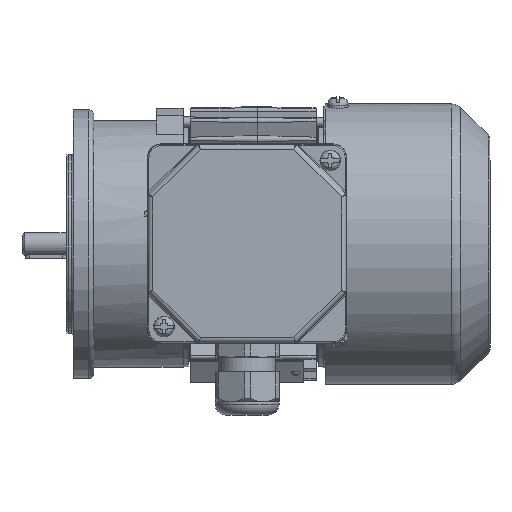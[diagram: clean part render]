
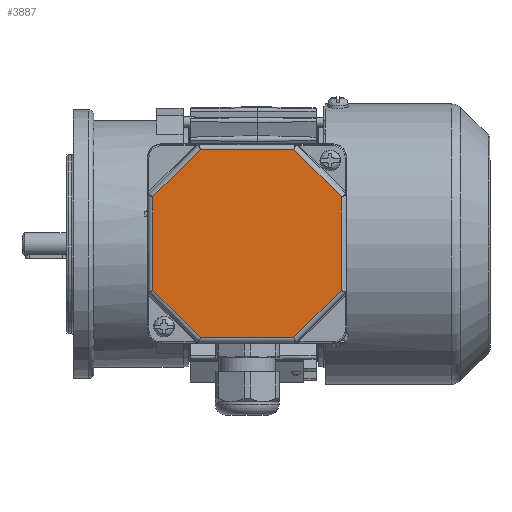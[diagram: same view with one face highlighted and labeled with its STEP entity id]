
A CAD part, top view. The second image highlights one B-rep face of the part: STEP entity #3887.
In plain terms, the highlighted planar face has unit normal (0, 0, 1).
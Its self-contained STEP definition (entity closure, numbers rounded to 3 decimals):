
#3887 = ADVANCED_FACE( '', ( #8253 ), #8254, .T. );
#8253 = FACE_OUTER_BOUND( '', #16474, .T. );
#8254 = PLANE( '', #16475 );
#16474 = EDGE_LOOP( '', ( #30069, #30070, #30071, #30072, #30073, #30074, #30075, #30076 ) );
#16475 = AXIS2_PLACEMENT_3D( '', #30077, #30078, #30079 );
#30069 = ORIENTED_EDGE( '', *, *, #40527, .T. );
#30070 = ORIENTED_EDGE( '', *, *, #40528, .T. );
#30071 = ORIENTED_EDGE( '', *, *, #40529, .T. );
#30072 = ORIENTED_EDGE( '', *, *, #40530, .T. );
#30073 = ORIENTED_EDGE( '', *, *, #40051, .T. );
#30074 = ORIENTED_EDGE( '', *, *, #39827, .T. );
#30075 = ORIENTED_EDGE( '', *, *, #40531, .T. );
#30076 = ORIENTED_EDGE( '', *, *, #39515, .T. );
#30077 = CARTESIAN_POINT( '', ( -39., 39., 12. ) );
#30078 = DIRECTION( '', ( 0., 0., 1. ) );
#30079 = DIRECTION( '', ( 1., 0., 0. ) );
#39515 = EDGE_CURVE( '', #46682, #47059, #47061, .T. );
#39827 = EDGE_CURVE( '', #47518, #47519, #47520, .T. );
#40051 = EDGE_CURVE( '', #47819, #47518, #47820, .F. );
#40527 = EDGE_CURVE( '', #47059, #48456, #48457, .F. );
#40528 = EDGE_CURVE( '', #48456, #47356, #48458, .T. );
#40529 = EDGE_CURVE( '', #47356, #48459, #48460, .F. );
#40530 = EDGE_CURVE( '', #48459, #47819, #48461, .T. );
#40531 = EDGE_CURVE( '', #47519, #46682, #48462, .F. );
#46682 = VERTEX_POINT( '', #59254 );
#47059 = VERTEX_POINT( '', #59964 );
#47061 = LINE( '', #59966, #59967 );
#47356 = VERTEX_POINT( '', #60559 );
#47518 = VERTEX_POINT( '', #60815 );
#47519 = VERTEX_POINT( '', #60816 );
#47520 = LINE( '', #60817, #60818 );
#47819 = VERTEX_POINT( '', #61422 );
#47820 = LINE( '', #61423, #61424 );
#48456 = VERTEX_POINT( '', #62838 );
#48457 = LINE( '', #62839, #62840 );
#48458 = LINE( '', #62841, #62842 );
#48459 = VERTEX_POINT( '', #62843 );
#48460 = LINE( '', #62844, #62845 );
#48461 = LINE( '', #62846, #62847 );
#48462 = LINE( '', #62848, #62849 );
#59254 = CARTESIAN_POINT( '', ( 18.255, -36.825, 12. ) );
#59964 = CARTESIAN_POINT( '', ( 36.825, -18.255, 12. ) );
#59966 = CARTESIAN_POINT( '', ( 37.401, -17.679, 12. ) );
#59967 = VECTOR( '', #70928, 1000. );
#60559 = CARTESIAN_POINT( '', ( 18.255, 36.825, 12. ) );
#60815 = CARTESIAN_POINT( '', ( -36.825, -18.255, 12. ) );
#60816 = CARTESIAN_POINT( '', ( -18.255, -36.825, 12. ) );
#60817 = CARTESIAN_POINT( '', ( -17.679, -37.401, 12. ) );
#60818 = VECTOR( '', #71284, 1000. );
#61422 = CARTESIAN_POINT( '', ( -36.825, 18.255, 12. ) );
#61423 = CARTESIAN_POINT( '', ( -36.825, -19.069, 12. ) );
#61424 = VECTOR( '', #71531, 1000. );
#62838 = CARTESIAN_POINT( '', ( 36.825, 18.255, 12. ) );
#62839 = CARTESIAN_POINT( '', ( 36.825, 19.069, 12. ) );
#62840 = VECTOR( '', #72061, 1000. );
#62841 = CARTESIAN_POINT( '', ( 17.679, 37.401, 12. ) );
#62842 = VECTOR( '', #72062, 1000. );
#62843 = CARTESIAN_POINT( '', ( -18.255, 36.825, 12. ) );
#62844 = CARTESIAN_POINT( '', ( -19.069, 36.825, 12. ) );
#62845 = VECTOR( '', #72063, 1000. );
#62846 = CARTESIAN_POINT( '', ( -37.401, 17.679, 12. ) );
#62847 = VECTOR( '', #72064, 1000. );
#62848 = CARTESIAN_POINT( '', ( 19.069, -36.825, 12. ) );
#62849 = VECTOR( '', #72065, 1000. );
#70928 = DIRECTION( '', ( 0.707, 0.707, 0. ) );
#71284 = DIRECTION( '', ( 0.707, -0.707, 0. ) );
#71531 = DIRECTION( '', ( 0., 1., 0. ) );
#72061 = DIRECTION( '', ( 0., -1., 0. ) );
#72062 = DIRECTION( '', ( -0.707, 0.707, 0. ) );
#72063 = DIRECTION( '', ( 1., 0., 0. ) );
#72064 = DIRECTION( '', ( -0.707, -0.707, 0. ) );
#72065 = DIRECTION( '', ( -1., 0., 0. ) );
